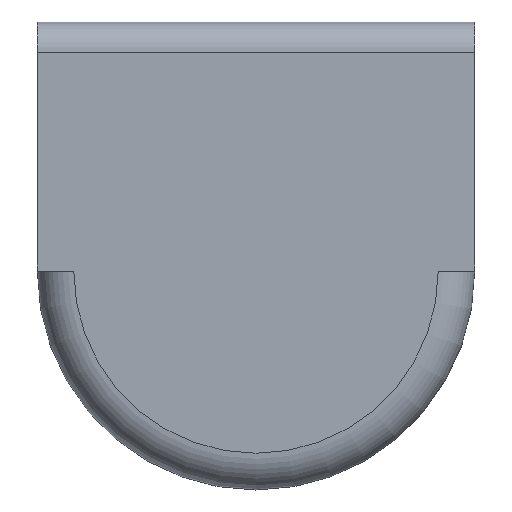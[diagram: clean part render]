
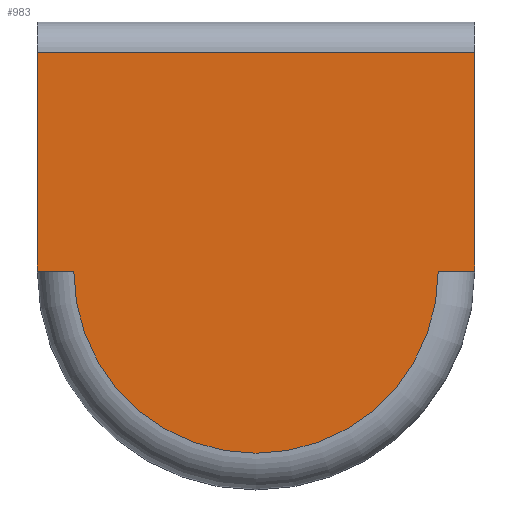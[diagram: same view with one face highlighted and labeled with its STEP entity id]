
A CAD part, top view. The second image highlights one B-rep face of the part: STEP entity #983.
In plain terms, the highlighted planar face has unit normal (0, 0, 1).
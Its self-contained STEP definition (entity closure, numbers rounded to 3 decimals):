
#90 = PLANE('',#91);
#91 = AXIS2_PLACEMENT_3D('',#92,#93,#94);
#92 = CARTESIAN_POINT('',(18.,-4.267,-3.926));
#93 = DIRECTION('',(1.,0.,0.));
#94 = DIRECTION('',(0.,1.,0.));
#144 = PLANE('',#145);
#145 = AXIS2_PLACEMENT_3D('',#146,#147,#148);
#146 = CARTESIAN_POINT('',(-18.,-4.267,-3.926));
#147 = DIRECTION('',(1.,0.,0.));
#148 = DIRECTION('',(0.,1.,0.));
#394 = VERTEX_POINT('',#395);
#395 = CARTESIAN_POINT('',(-18.,-0.5,2.));
#410 = CYLINDRICAL_SURFACE('',#411,2.5);
#411 = AXIS2_PLACEMENT_3D('',#412,#413,#414);
#412 = CARTESIAN_POINT('',(-18.,-0.5,-0.5));
#413 = DIRECTION('',(-1.,-0.,0.));
#414 = DIRECTION('',(0.,1.,0.));
#422 = EDGE_CURVE('',#423,#394,#425,.T.);
#423 = VERTEX_POINT('',#424);
#424 = CARTESIAN_POINT('',(-18.,-18.5,2.));
#425 = SURFACE_CURVE('',#426,(#430,#437),.PCURVE_S1.);
#426 = LINE('',#427,#428);
#427 = CARTESIAN_POINT('',(-18.,-18.5,2.));
#428 = VECTOR('',#429,1.);
#429 = DIRECTION('',(0.,1.,0.));
#430 = PCURVE('',#144,#431);
#431 = DEFINITIONAL_REPRESENTATION('',(#432),#436);
#432 = LINE('',#433,#434);
#433 = CARTESIAN_POINT('',(-14.233,5.926));
#434 = VECTOR('',#435,1.);
#435 = DIRECTION('',(1.,0.));
#436 = ( GEOMETRIC_REPRESENTATION_CONTEXT(2) 
PARAMETRIC_REPRESENTATION_CONTEXT() REPRESENTATION_CONTEXT('2D SPACE',''
  ) );
#437 = PCURVE('',#438,#443);
#438 = PLANE('',#439);
#439 = AXIS2_PLACEMENT_3D('',#440,#441,#442);
#440 = CARTESIAN_POINT('',(-18.,-18.5,2.));
#441 = DIRECTION('',(0.,0.,1.));
#442 = DIRECTION('',(0.,1.,0.));
#443 = DEFINITIONAL_REPRESENTATION('',(#444),#448);
#444 = LINE('',#445,#446);
#445 = CARTESIAN_POINT('',(0.,0.));
#446 = VECTOR('',#447,1.);
#447 = DIRECTION('',(1.,0.));
#448 = ( GEOMETRIC_REPRESENTATION_CONTEXT(2) 
PARAMETRIC_REPRESENTATION_CONTEXT() REPRESENTATION_CONTEXT('2D SPACE',''
  ) );
#466 = PLANE('',#467);
#467 = AXIS2_PLACEMENT_3D('',#468,#469,#470);
#468 = CARTESIAN_POINT('',(-18.,-18.5,0.));
#469 = DIRECTION('',(0.,-1.,0.));
#470 = DIRECTION('',(0.,0.,1.));
#612 = VERTEX_POINT('',#613);
#613 = CARTESIAN_POINT('',(18.,-0.5,2.));
#635 = EDGE_CURVE('',#636,#612,#638,.T.);
#636 = VERTEX_POINT('',#637);
#637 = CARTESIAN_POINT('',(18.,-18.5,2.));
#638 = SURFACE_CURVE('',#639,(#643,#650),.PCURVE_S1.);
#639 = LINE('',#640,#641);
#640 = CARTESIAN_POINT('',(18.,-18.5,2.));
#641 = VECTOR('',#642,1.);
#642 = DIRECTION('',(0.,1.,0.));
#643 = PCURVE('',#90,#644);
#644 = DEFINITIONAL_REPRESENTATION('',(#645),#649);
#645 = LINE('',#646,#647);
#646 = CARTESIAN_POINT('',(-14.233,5.926));
#647 = VECTOR('',#648,1.);
#648 = DIRECTION('',(1.,0.));
#649 = ( GEOMETRIC_REPRESENTATION_CONTEXT(2) 
PARAMETRIC_REPRESENTATION_CONTEXT() REPRESENTATION_CONTEXT('2D SPACE',''
  ) );
#650 = PCURVE('',#438,#651);
#651 = DEFINITIONAL_REPRESENTATION('',(#652),#656);
#652 = LINE('',#653,#654);
#653 = CARTESIAN_POINT('',(0.,-36.));
#654 = VECTOR('',#655,1.);
#655 = DIRECTION('',(1.,0.));
#656 = ( GEOMETRIC_REPRESENTATION_CONTEXT(2) 
PARAMETRIC_REPRESENTATION_CONTEXT() REPRESENTATION_CONTEXT('2D SPACE',''
  ) );
#674 = PLANE('',#675);
#675 = AXIS2_PLACEMENT_3D('',#676,#677,#678);
#676 = CARTESIAN_POINT('',(-18.,-18.5,0.));
#677 = DIRECTION('',(0.,-1.,0.));
#678 = DIRECTION('',(0.,0.,1.));
#962 = EDGE_CURVE('',#394,#612,#963,.T.);
#963 = SURFACE_CURVE('',#964,(#968,#975),.PCURVE_S1.);
#964 = LINE('',#965,#966);
#965 = CARTESIAN_POINT('',(-18.,-0.5,2.));
#966 = VECTOR('',#967,1.);
#967 = DIRECTION('',(1.,0.,0.));
#968 = PCURVE('',#410,#969);
#969 = DEFINITIONAL_REPRESENTATION('',(#970),#974);
#970 = LINE('',#971,#972);
#971 = CARTESIAN_POINT('',(-1.571,0.));
#972 = VECTOR('',#973,1.);
#973 = DIRECTION('',(-0.,-1.));
#974 = ( GEOMETRIC_REPRESENTATION_CONTEXT(2) 
PARAMETRIC_REPRESENTATION_CONTEXT() REPRESENTATION_CONTEXT('2D SPACE',''
  ) );
#975 = PCURVE('',#438,#976);
#976 = DEFINITIONAL_REPRESENTATION('',(#977),#981);
#977 = LINE('',#978,#979);
#978 = CARTESIAN_POINT('',(18.,0.));
#979 = VECTOR('',#980,1.);
#980 = DIRECTION('',(0.,-1.));
#981 = ( GEOMETRIC_REPRESENTATION_CONTEXT(2) 
PARAMETRIC_REPRESENTATION_CONTEXT() REPRESENTATION_CONTEXT('2D SPACE',''
  ) );
#983 = ADVANCED_FACE('',(#984),#438,.T.);
#984 = FACE_BOUND('',#985,.T.);
#985 = EDGE_LOOP('',(#986,#1009,#1038,#1059,#1060,#1061));
#986 = ORIENTED_EDGE('',*,*,#987,.T.);
#987 = EDGE_CURVE('',#423,#988,#990,.T.);
#988 = VERTEX_POINT('',#989);
#989 = CARTESIAN_POINT('',(-15.,-18.5,2.));
#990 = SURFACE_CURVE('',#991,(#995,#1002),.PCURVE_S1.);
#991 = LINE('',#992,#993);
#992 = CARTESIAN_POINT('',(-18.,-18.5,2.));
#993 = VECTOR('',#994,1.);
#994 = DIRECTION('',(1.,0.,0.));
#995 = PCURVE('',#438,#996);
#996 = DEFINITIONAL_REPRESENTATION('',(#997),#1001);
#997 = LINE('',#998,#999);
#998 = CARTESIAN_POINT('',(0.,0.));
#999 = VECTOR('',#1000,1.);
#1000 = DIRECTION('',(0.,-1.));
#1001 = ( GEOMETRIC_REPRESENTATION_CONTEXT(2) 
PARAMETRIC_REPRESENTATION_CONTEXT() REPRESENTATION_CONTEXT('2D SPACE',''
  ) );
#1002 = PCURVE('',#466,#1003);
#1003 = DEFINITIONAL_REPRESENTATION('',(#1004),#1008);
#1004 = LINE('',#1005,#1006);
#1005 = CARTESIAN_POINT('',(2.,0.));
#1006 = VECTOR('',#1007,1.);
#1007 = DIRECTION('',(0.,-1.));
#1008 = ( GEOMETRIC_REPRESENTATION_CONTEXT(2) 
PARAMETRIC_REPRESENTATION_CONTEXT() REPRESENTATION_CONTEXT('2D SPACE',''
  ) );
#1009 = ORIENTED_EDGE('',*,*,#1010,.T.);
#1010 = EDGE_CURVE('',#988,#1011,#1013,.T.);
#1011 = VERTEX_POINT('',#1012);
#1012 = CARTESIAN_POINT('',(15.,-18.5,2.));
#1013 = SURFACE_CURVE('',#1014,(#1019,#1026),.PCURVE_S1.);
#1014 = CIRCLE('',#1015,15.);
#1015 = AXIS2_PLACEMENT_3D('',#1016,#1017,#1018);
#1016 = CARTESIAN_POINT('',(0.,-18.5,2.));
#1017 = DIRECTION('',(0.,0.,1.));
#1018 = DIRECTION('',(-1.,0.,0.));
#1019 = PCURVE('',#438,#1020);
#1020 = DEFINITIONAL_REPRESENTATION('',(#1021),#1025);
#1021 = CIRCLE('',#1022,15.);
#1022 = AXIS2_PLACEMENT_2D('',#1023,#1024);
#1023 = CARTESIAN_POINT('',(0.,-18.));
#1024 = DIRECTION('',(0.,1.));
#1025 = ( GEOMETRIC_REPRESENTATION_CONTEXT(2) 
PARAMETRIC_REPRESENTATION_CONTEXT() REPRESENTATION_CONTEXT('2D SPACE',''
  ) );
#1026 = PCURVE('',#1027,#1032);
#1027 = TOROIDAL_SURFACE('',#1028,15.,3.);
#1028 = AXIS2_PLACEMENT_3D('',#1029,#1030,#1031);
#1029 = CARTESIAN_POINT('',(0.,-18.5,-1.));
#1030 = DIRECTION('',(0.,0.,1.));
#1031 = DIRECTION('',(-1.,0.,0.));
#1032 = DEFINITIONAL_REPRESENTATION('',(#1033),#1037);
#1033 = LINE('',#1034,#1035);
#1034 = CARTESIAN_POINT('',(0.,1.571));
#1035 = VECTOR('',#1036,1.);
#1036 = DIRECTION('',(1.,0.));
#1037 = ( GEOMETRIC_REPRESENTATION_CONTEXT(2) 
PARAMETRIC_REPRESENTATION_CONTEXT() REPRESENTATION_CONTEXT('2D SPACE',''
  ) );
#1038 = ORIENTED_EDGE('',*,*,#1039,.T.);
#1039 = EDGE_CURVE('',#1011,#636,#1040,.T.);
#1040 = SURFACE_CURVE('',#1041,(#1045,#1052),.PCURVE_S1.);
#1041 = LINE('',#1042,#1043);
#1042 = CARTESIAN_POINT('',(-18.,-18.5,2.));
#1043 = VECTOR('',#1044,1.);
#1044 = DIRECTION('',(1.,0.,0.));
#1045 = PCURVE('',#438,#1046);
#1046 = DEFINITIONAL_REPRESENTATION('',(#1047),#1051);
#1047 = LINE('',#1048,#1049);
#1048 = CARTESIAN_POINT('',(0.,0.));
#1049 = VECTOR('',#1050,1.);
#1050 = DIRECTION('',(0.,-1.));
#1051 = ( GEOMETRIC_REPRESENTATION_CONTEXT(2) 
PARAMETRIC_REPRESENTATION_CONTEXT() REPRESENTATION_CONTEXT('2D SPACE',''
  ) );
#1052 = PCURVE('',#674,#1053);
#1053 = DEFINITIONAL_REPRESENTATION('',(#1054),#1058);
#1054 = LINE('',#1055,#1056);
#1055 = CARTESIAN_POINT('',(2.,0.));
#1056 = VECTOR('',#1057,1.);
#1057 = DIRECTION('',(0.,-1.));
#1058 = ( GEOMETRIC_REPRESENTATION_CONTEXT(2) 
PARAMETRIC_REPRESENTATION_CONTEXT() REPRESENTATION_CONTEXT('2D SPACE',''
  ) );
#1059 = ORIENTED_EDGE('',*,*,#635,.T.);
#1060 = ORIENTED_EDGE('',*,*,#962,.F.);
#1061 = ORIENTED_EDGE('',*,*,#422,.F.);
